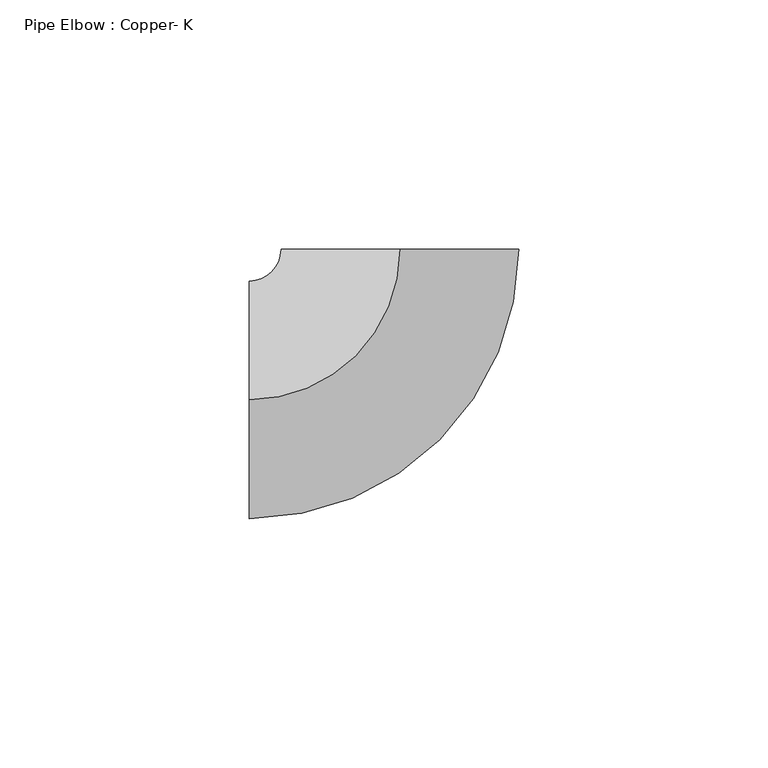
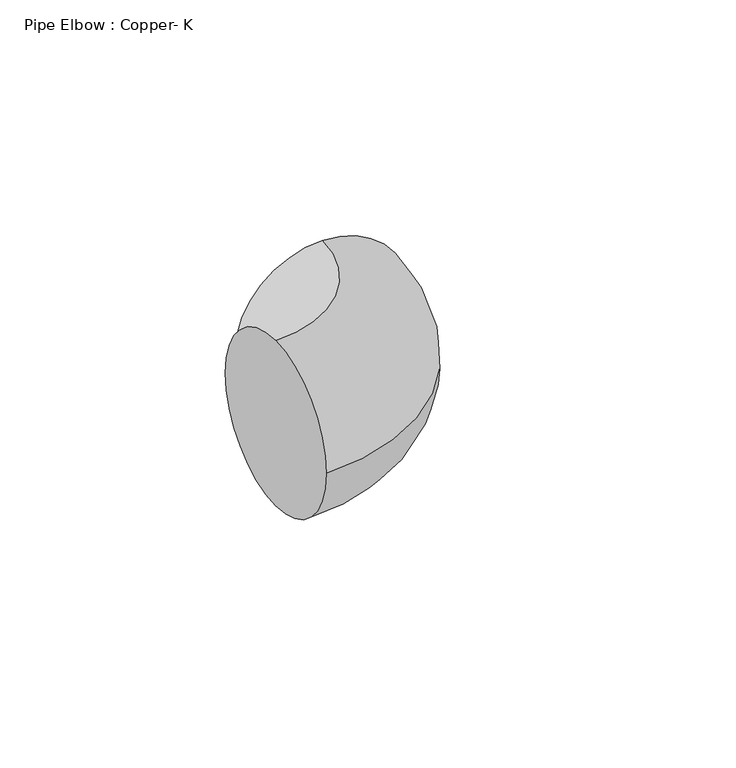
"""IFC4 building model written with IfcOpenShell, lengths in millimetres: pipe fitting geometry, Pipe Elbow : Copper- K."""

import ifcopenshell
import ifcopenshell.guid

model = None  # the IFC model being written
_history = None  # IfcOwnerHistory: only IFC2X3 demands one
_inside = {}  # id of a spatial element -> (the spatial element, [elements in it])
_under = {}  # id of a project, library or spatial element -> (it, [spatial elements below it])
_declared = {}  # id of a project -> (the project, [libraries it declares])
_typed = {}  # id of a type object -> (the type object, [elements of that type])
_made_of = {}  # id of a material, layer set ... -> (it, [elements and type objects made of it])


def new_model(schema):
    """Start an empty IFC model of exactly this schema.

    Asked for "IFC4X3", IfcOpenShell would pick the latest addendum, in which some entities
    have other attributes; the version numbers below select the first issue.
    IFC2X3 requires an IfcOwnerHistory on every rooted entity: one is made here for all.
    """
    global model, _history
    if schema == "IFC4X3":
        model = ifcopenshell.file(schema_version=(4, 3, 0, 0))
    else:
        model = ifcopenshell.file(schema=schema)
    _inside.clear()
    _under.clear()
    _declared.clear()
    _typed.clear()
    _made_of.clear()
    _history = None
    if model.schema == "IFC2X3":
        org = make("IfcOrganization", Name="unknown")
        user = make(
            "IfcPersonAndOrganization",
            ThePerson=make("IfcPerson", FamilyName="unknown"),
            TheOrganization=org,
        )
        app = make(
            "IfcApplication",
            ApplicationDeveloper=org,
            Version="unknown",
            ApplicationFullName="unknown",
            ApplicationIdentifier="unknown",
        )
        _history = make(
            "IfcOwnerHistory",
            OwningUser=user,
            OwningApplication=app,
            ChangeAction="ADDED",
            CreationDate=0,
        )
    return model


def make(cls, **values):
    """One entity of the class cls with the attributes given. An attribute that is None is left unset."""
    return model.create_entity(
        cls, **{name: value for name, value in values.items() if value is not None}
    )


def rooted(cls, **values):
    """An entity with a GlobalId (a new one), such as an element, a storey or a relation."""
    return make(cls, GlobalId=ifcopenshell.guid.new(), OwnerHistory=_history, **values)


def si_unit(unit_type, name, prefix=None):
    """IfcSIUnit, for example si_unit("LENGTHUNIT", "METRE", prefix="MILLI")."""
    return make("IfcSIUnit", UnitType=unit_type, Prefix=prefix, Name=name)


def assignment(units):
    """IfcUnitAssignment: the units of a project."""
    return None if units is None else make("IfcUnitAssignment", Units=units)


def point(xyz):
    """IfcCartesianPoint."""
    return None if xyz is None else make("IfcCartesianPoint", Coordinates=xyz)


def direction(xyz):
    """IfcDirection."""
    return None if xyz is None else make("IfcDirection", DirectionRatios=xyz)


def frame(location, z_axis=None, x_axis=None):
    """IfcAxis2Placement3D, a coordinate frame: its origin and axes. An axis left out is left unset."""
    return make(
        "IfcAxis2Placement3D",
        Location=point(location),
        Axis=direction(z_axis),
        RefDirection=direction(x_axis),
    )


def origin():
    """The frame at (0, 0, 0) with its axes left unset."""
    return frame((0.0, 0.0, 0.0))


def place(relative_to, where):
    """IfcLocalPlacement: puts the frame where relative to a parent placement (None: the world)."""
    return make(
        "IfcLocalPlacement", PlacementRelTo=relative_to, RelativePlacement=where
    )


def context(
    kind, dimensions, precision=None, world=None, true_north=None, identifier=None
):
    """IfcGeometricRepresentationContext, for example the 3D "Model" context."""
    return make(
        "IfcGeometricRepresentationContext",
        ContextIdentifier=identifier,
        ContextType=kind,
        CoordinateSpaceDimension=dimensions,
        Precision=precision,
        WorldCoordinateSystem=world,
        TrueNorth=true_north,
    )


def project(units=None, contexts=None):
    """IfcProject with its units and contexts."""
    return rooted(
        "IfcProject",
        Name="project",
        RepresentationContexts=contexts,
        UnitsInContext=assignment(units),
    )


def spatial(cls, under=None, at=None, **own):
    """A site, building, storey or space (cls), placed at a placement, below another one or the project."""
    s = rooted(cls, ObjectPlacement=at, **own)
    if under is not None:
        _under.setdefault(under.id(), (under, []))[1].append(s)
    return s


def circle_curve(where, radius):
    """IfcCircle in the frame where."""
    return make("IfcCircle", Position=where, Radius=radius)


def ellipse_curve(where, semi_axis1, semi_axis2):
    """IfcEllipse in the frame where."""
    return make(
        "IfcEllipse", Position=where, SemiAxis1=semi_axis1, SemiAxis2=semi_axis2
    )


def trimmed(basis, trim1, trim2, sense, master):
    """IfcTrimmedCurve: the piece of a basis curve between two trims."""
    return make(
        "IfcTrimmedCurve",
        BasisCurve=basis,
        Trim1=trim1,
        Trim2=trim2,
        SenseAgreement=sense,
        MasterRepresentation=master,
    )


def shape(context_of_items, identifier, shape_type, items):
    """IfcShapeRepresentation: the items that make up one representation, for example the "Body"."""
    return make(
        "IfcShapeRepresentation",
        ContextOfItems=context_of_items,
        RepresentationIdentifier=identifier,
        RepresentationType=shape_type,
        Items=items,
    )


def source(mapping_origin, context_of_items, identifier, shape_type, items):
    """IfcRepresentationMap: a shape defined once, which mapped items show again and again."""
    return make(
        "IfcRepresentationMap",
        MappingOrigin=mapping_origin,
        MappedRepresentation=shape(context_of_items, identifier, shape_type, items),
    )


def transform(
    local_origin,
    x_axis=None,
    y_axis=None,
    z_axis=None,
    scale=None,
    scale2=None,
    scale3=None,
    uniform=True,
):
    """IfcCartesianTransformationOperator3D, or its non-uniform kind. x_axis, y_axis, z_axis: its Axis1, 2, 3."""
    if uniform:
        return make(
            "IfcCartesianTransformationOperator3D",
            Axis1=direction(x_axis),
            Axis2=direction(y_axis),
            LocalOrigin=point(local_origin),
            Scale=scale,
            Axis3=direction(z_axis),
        )
    return make(
        "IfcCartesianTransformationOperator3DnonUniform",
        Axis1=direction(x_axis),
        Axis2=direction(y_axis),
        LocalOrigin=point(local_origin),
        Scale=scale,
        Axis3=direction(z_axis),
        Scale2=scale2,
        Scale3=scale3,
    )


def mapped(mapping_source, mapping_target):
    """IfcMappedItem: shows the shape of a source again, moved by a transform."""
    return make(
        "IfcMappedItem", MappingSource=mapping_source, MappingTarget=mapping_target
    )


def made_of(thing, what):
    """Note that an element or type object is made of a material, layer set ...; save() writes the relation."""
    if what is not None:
        _made_of.setdefault(what.id(), (what, []))[1].append(thing)
    return thing


def element(
    cls,
    number,
    at=None,
    inside=None,
    cuts=None,
    type_object=None,
    material=None,
    context=None,
    identifier="Body",
    shape_type=None,
    held_by="IfcProductDefinitionShape",
    body=None,
    shapes=None,
    **own,
):
    """One element of the class cls, such as IfcWall. Its Tag is "e" and its number.

    at: its placement. inside: the storey or other place that contains it. cuts: it is an
    opening in that element (IfcRelVoidsElement). A single representation is given by context,
    identifier, shape_type and body (its items); several are given by shapes. held_by: the class
    of the entity that holds the representations. save() writes the other relations.
    """
    e = rooted(cls, Tag="e%d" % number, ObjectPlacement=at, **own)
    if body is not None:
        shapes = [shape(context, identifier, shape_type, body)]
    if shapes is not None:
        e.Representation = make(held_by, Representations=shapes)
    if inside is not None:
        _inside.setdefault(inside.id(), (inside, []))[1].append(e)
    if cuts is not None:
        rooted(
            "IfcRelVoidsElement", RelatingBuildingElement=cuts, RelatedOpeningElement=e
        )
    if type_object is not None:
        _typed.setdefault(type_object.id(), (type_object, []))[1].append(e)
    return made_of(e, material)


def aggregate(whole, parts):
    """IfcRelAggregates: a whole, such as a stair, and the parts it consists of."""
    return rooted("IfcRelAggregates", RelatingObject=whole, RelatedObjects=parts)


def save(model, path):
    """Write the relations noted so far, then the file.

    IfcRelAggregates (storeys below a building ...), IfcRelContainedInSpatialStructure (elements
    in a storey), IfcRelDefinesByType, IfcRelAssociatesMaterial and IfcRelDeclares: one each for
    every whole, place, type object, material and project.
    """
    for whole, parts in _under.values():
        aggregate(whole, parts)
    for where, things in _inside.values():
        rooted(
            "IfcRelContainedInSpatialStructure",
            RelatedElements=things,
            RelatingStructure=where,
        )
    for kind, things in _typed.values():
        rooted("IfcRelDefinesByType", RelatedObjects=things, RelatingType=kind)
    for what, things in _made_of.values():
        rooted("IfcRelAssociatesMaterial", RelatedObjects=things, RelatingMaterial=what)
    for by, libraries in _declared.values():
        rooted("IfcRelDeclares", RelatingContext=by, RelatedDefinitions=libraries)
    model.write(path)


def plane_surface(at):
    """IfcPlane: the flat surface through the origin of the frame at, square to its z axis."""
    return make("IfcPlane", Position=at)


def revolved_surface(curve, axis_point, axis_direction):
    """IfcSurfaceOfRevolution: the curve turned about the line through axis_point along axis_direction."""
    return make(
        "IfcSurfaceOfRevolution",
        SweptCurve=make("IfcArbitraryOpenProfileDef", ProfileType="CURVE", Curve=curve),
        AxisPosition=make("IfcAxis1Placement", Location=point(axis_point), Axis=direction(axis_direction)),
    )


def advanced_brep(points, edges, surfaces, faces):
    """IfcAdvancedBrep: a solid bounded by faces that lie on surfaces and meet in shared edges.

    An edge is (start, end): straight between two places in points (the first is 0);
    or (start, end, curve); or (start, end, curve, False) where it runs against its curve.
    A face is (place in surfaces, loops), or (place, loops, False) where it looks against
    its surface's normal. A loop lists edges by number (the first is 1), with a minus sign
    where the edge is run from its end to its start. The first loop is the outer one.
    """
    corners = [point(p) for p in points]
    vertices = [make("IfcVertexPoint", VertexGeometry=c) for c in corners]
    made = []
    for start, end, *more in edges:
        made.append(
            make(
                "IfcEdgeCurve",
                EdgeStart=vertices[start],
                EdgeEnd=vertices[end],
                EdgeGeometry=more[0] if more else make("IfcPolyline", Points=[corners[start], corners[end]]),
                SameSense=more[1] if len(more) > 1 else True,
            )
        )
    hull = []
    for where, loops, *sense in faces:
        bounds = []
        for j, loop in enumerate(loops):
            ring = [make("IfcOrientedEdge", EdgeElement=made[abs(k) - 1], Orientation=k > 0) for k in loop]
            bounds.append(
                make(
                    "IfcFaceOuterBound" if j == 0 else "IfcFaceBound",
                    Bound=make("IfcEdgeLoop", EdgeList=ring),
                    Orientation=True,
                )
            )
        hull.append(make("IfcAdvancedFace", Bounds=bounds, FaceSurface=surfaces[where], SameSense=sense[0] if sense else True))
    return make("IfcAdvancedBrep", Outer=make("IfcClosedShell", CfsFaces=hull))


def pipe_elbow_copper_k_e0d34d9b(model_context):
    return source(origin(), model_context, "Body", "AdvancedBrep", [
        advanced_brep(
        [(-30.1593731, 0.0, 23.8125), (-30.1593731, 23.8125, 0.0), (-30.1593731, 0.0, -23.8125), (-30.1593731, -23.8125, 0.0), (0.0031268, 30.1593729, 23.8125), (23.8156266, 30.1569042, 0.0), (0.0031268, 30.1593729, -23.8125), (-23.8093731, 30.1618417, 0.0)],
        [
            (0, 1, circle_curve(frame((-30.1593731, 0.0, 0.0), z_axis=(-1.0, 0.0, 0.0), x_axis=(0.0, 1.0, 0.0)), 23.8125)),
            (1, 2, circle_curve(frame((-30.1593731, 0.0, 0.0), z_axis=(-1.0, 0.0, 0.0), x_axis=(0.0, 1.0, 0.0)), 23.8125)),
            (2, 3, circle_curve(frame((-30.1593731, 0.0, 0.0), z_axis=(-1.0, 0.0, 0.0), x_axis=(0.0, 1.0, 0.0)), 23.8125)),
            (3, 0, circle_curve(frame((-30.1593731, 0.0, 0.0), z_axis=(-1.0, 0.0, 0.0), x_axis=(0.0, 1.0, 0.0)), 23.8125)),
            (4, 5, circle_curve(frame((0.0031268, 30.1593729, 0.0), z_axis=(0.00010367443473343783, 0.9999999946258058, 0.0), x_axis=(-0.9999999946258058, 0.00010367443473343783, 0.0)), 23.8125)),
            (5, 6, circle_curve(frame((0.0031268, 30.1593729, 0.0), z_axis=(0.00010367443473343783, 0.9999999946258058, 0.0), x_axis=(-0.9999999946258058, 0.00010367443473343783, 0.0)), 23.8125)),
            (6, 7, circle_curve(frame((0.0031268, 30.1593729, 0.0), z_axis=(0.00010367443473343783, 0.9999999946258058, 0.0), x_axis=(-0.9999999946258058, 0.00010367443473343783, 0.0)), 23.8125)),
            (7, 4, circle_curve(frame((0.0031268, 30.1593729, 0.0), z_axis=(0.00010367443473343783, 0.9999999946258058, 0.0), x_axis=(-0.9999999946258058, 0.00010367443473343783, 0.0)), 23.8125)),
            (7, 1, circle_curve(frame((-30.1593731, 30.1625, 0.0), z_axis=(0.0, 0.0, -1.0), x_axis=(0.0, -1.0, 0.0)), 6.35)),
            (0, 4, circle_curve(frame((-30.1593731, 30.1625, 23.8125), z_axis=(0.0, 0.0, 1.0), x_axis=(0.0, -1.0, 0.0)), 30.1625)),
            (6, 2, circle_curve(frame((-30.1593731, 30.1625, -23.8125), z_axis=(0.0, 0.0, -1.0), x_axis=(0.0, -1.0, 0.0)), 30.1625)),
            (5, 3, circle_curve(frame((-30.1593731, 30.1625, 0.0), z_axis=(0.0, 0.0, -1.0), x_axis=(0.0, -1.0, 0.0)), 53.975)),
        ],
        [
            plane_surface(frame((-30.1593731, 0.0, 0.0), z_axis=(-1.0, 0.0, 0.0), x_axis=(0.0, 0.0, 1.0))),
            plane_surface(frame((0.0031268, 30.1593729, 0.0), z_axis=(0.000103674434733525, 0.9999999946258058, 0.0), x_axis=(0.0, 0.0, 1.0))),
            revolved_surface(trimmed(ellipse_curve(frame((-30.1593731, 0.0, 0.0), z_axis=(-1.0, 0.0, 0.0), x_axis=(0.0, 1.0, 0.0)), 23.8125, 23.8125), [point((-30.1593731, 0.0, 23.8125))], [point((-30.1593731, 23.8125, 0.0))], True, "CARTESIAN"), (-30.1593731, 30.1625, 0.0), (0.0, 0.0, 1.0)),
            revolved_surface(trimmed(ellipse_curve(frame((-30.1593731, 0.0, 0.0), z_axis=(-1.0, 0.0, 0.0), x_axis=(0.0, 1.0, 0.0)), 23.8125, 23.8125), [point((-30.1593731, 23.8125, 0.0))], [point((-30.1593731, 0.0, -23.8125))], True, "CARTESIAN"), (-30.1593731, 30.1625, 0.0), (0.0, 0.0, 1.0)),
            revolved_surface(trimmed(ellipse_curve(frame((-30.1593731, 0.0, 0.0), z_axis=(-1.0, 0.0, 0.0), x_axis=(0.0, 1.0, 0.0)), 23.8125, 23.8125), [point((-30.1593731, 0.0, -23.8125))], [point((-30.1593731, -23.8125, 0.0))], True, "CARTESIAN"), (-30.1593731, 30.1625, 0.0), (0.0, 0.0, 1.0)),
            revolved_surface(trimmed(ellipse_curve(frame((-30.1593731, 0.0, 0.0), z_axis=(-1.0, 0.0, 0.0), x_axis=(0.0, 1.0, 0.0)), 23.8125, 23.8125), [point((-30.1593731, -23.8125, 0.0))], [point((-30.1593731, 0.0, 23.8125))], True, "CARTESIAN"), (-30.1593731, 30.1625, 0.0), (0.0, 0.0, 1.0)),
        ],
        [
            (0, [[1, 2, 3, 4]]),
            (1, [[5, 6, 7, 8]]),
            (2, [[9, -1, 10, -8]]),
            (3, [[11, -2, -9, -7]]),
            (4, [[12, -3, -11, -6]]),
            (5, [[-10, -4, -12, -5]]),
        ],
    ),
        advanced_brep(
        [(-30.1593731, 0.0, 23.8125), (-30.1593731, 23.8125, 0.0), (-30.1593731, 0.0, -23.8125), (-30.1593731, -23.8125, 0.0), (0.0031268, 30.1593729, 23.8125), (23.8156266, 30.1569042, 0.0), (0.0031268, 30.1593729, -23.8125), (-23.8093731, 30.1618417, 0.0)],
        [
            (0, 1, circle_curve(frame((-30.1593731, 0.0, 0.0), z_axis=(-1.0, 0.0, 0.0), x_axis=(0.0, 1.0, 0.0)), 23.8125)),
            (1, 2, circle_curve(frame((-30.1593731, 0.0, 0.0), z_axis=(-1.0, 0.0, 0.0), x_axis=(0.0, 1.0, 0.0)), 23.8125)),
            (2, 3, circle_curve(frame((-30.1593731, 0.0, 0.0), z_axis=(-1.0, 0.0, 0.0), x_axis=(0.0, 1.0, 0.0)), 23.8125)),
            (3, 0, circle_curve(frame((-30.1593731, 0.0, 0.0), z_axis=(-1.0, 0.0, 0.0), x_axis=(0.0, 1.0, 0.0)), 23.8125)),
            (4, 5, circle_curve(frame((0.0031268, 30.1593729, 0.0), z_axis=(0.00010367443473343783, 0.9999999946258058, 0.0), x_axis=(-0.9999999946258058, 0.00010367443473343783, 0.0)), 23.8125)),
            (5, 6, circle_curve(frame((0.0031268, 30.1593729, 0.0), z_axis=(0.00010367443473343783, 0.9999999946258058, 0.0), x_axis=(-0.9999999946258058, 0.00010367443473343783, 0.0)), 23.8125)),
            (6, 7, circle_curve(frame((0.0031268, 30.1593729, 0.0), z_axis=(0.00010367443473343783, 0.9999999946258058, 0.0), x_axis=(-0.9999999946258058, 0.00010367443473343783, 0.0)), 23.8125)),
            (7, 4, circle_curve(frame((0.0031268, 30.1593729, 0.0), z_axis=(0.00010367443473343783, 0.9999999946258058, 0.0), x_axis=(-0.9999999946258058, 0.00010367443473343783, 0.0)), 23.8125)),
            (7, 1, circle_curve(frame((-30.1593731, 30.1625, 0.0), z_axis=(0.0, 0.0, -1.0), x_axis=(0.0, -1.0, 0.0)), 6.35)),
            (0, 4, circle_curve(frame((-30.1593731, 30.1625, 23.8125), z_axis=(0.0, 0.0, 1.0), x_axis=(0.0, -1.0, 0.0)), 30.1625)),
            (6, 2, circle_curve(frame((-30.1593731, 30.1625, -23.8125), z_axis=(0.0, 0.0, -1.0), x_axis=(0.0, -1.0, 0.0)), 30.1625)),
            (5, 3, circle_curve(frame((-30.1593731, 30.1625, 0.0), z_axis=(0.0, 0.0, -1.0), x_axis=(0.0, -1.0, 0.0)), 53.975)),
        ],
        [
            plane_surface(frame((-30.1593731, 0.0, 0.0), z_axis=(-1.0, 0.0, 0.0), x_axis=(0.0, 0.0, 1.0))),
            plane_surface(frame((0.0031268, 30.1593729, 0.0), z_axis=(0.000103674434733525, 0.9999999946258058, 0.0), x_axis=(0.0, 0.0, 1.0))),
            revolved_surface(trimmed(ellipse_curve(frame((-30.1593731, 0.0, 0.0), z_axis=(-1.0, 0.0, 0.0), x_axis=(0.0, 1.0, 0.0)), 23.8125, 23.8125), [point((-30.1593731, 0.0, 23.8125))], [point((-30.1593731, 23.8125, 0.0))], True, "CARTESIAN"), (-30.1593731, 30.1625, 0.0), (0.0, 0.0, 1.0)),
            revolved_surface(trimmed(ellipse_curve(frame((-30.1593731, 0.0, 0.0), z_axis=(-1.0, 0.0, 0.0), x_axis=(0.0, 1.0, 0.0)), 23.8125, 23.8125), [point((-30.1593731, 23.8125, 0.0))], [point((-30.1593731, 0.0, -23.8125))], True, "CARTESIAN"), (-30.1593731, 30.1625, 0.0), (0.0, 0.0, 1.0)),
            revolved_surface(trimmed(ellipse_curve(frame((-30.1593731, 0.0, 0.0), z_axis=(-1.0, 0.0, 0.0), x_axis=(0.0, 1.0, 0.0)), 23.8125, 23.8125), [point((-30.1593731, 0.0, -23.8125))], [point((-30.1593731, -23.8125, 0.0))], True, "CARTESIAN"), (-30.1593731, 30.1625, 0.0), (0.0, 0.0, 1.0)),
            revolved_surface(trimmed(ellipse_curve(frame((-30.1593731, 0.0, 0.0), z_axis=(-1.0, 0.0, 0.0), x_axis=(0.0, 1.0, 0.0)), 23.8125, 23.8125), [point((-30.1593731, -23.8125, 0.0))], [point((-30.1593731, 0.0, 23.8125))], True, "CARTESIAN"), (-30.1593731, 30.1625, 0.0), (0.0, 0.0, 1.0)),
        ],
        [
            (0, [[1, 2, 3, 4]]),
            (1, [[5, 6, 7, 8]]),
            (2, [[9, -1, 10, -8]]),
            (3, [[11, -2, -9, -7]]),
            (4, [[12, -3, -11, -6]]),
            (5, [[-10, -4, -12, -5]]),
        ],
    ),
    ])


if __name__ == "__main__":
    model = new_model("IFC4")
    model_context = context("Model", 3, world=origin())
    ifc_project = project(units=[si_unit("LENGTHUNIT", "METRE", prefix="MILLI")], contexts=[model_context])
    site = spatial("IfcSite", under=ifc_project)
    building = spatial("IfcBuilding", under=site)
    placement = place(None, origin())
    pipe_elbow_copper_k_shape = pipe_elbow_copper_k_e0d34d9b(model_context)
    element("IfcPipeFitting", 1, ObjectType="Pipe Elbow : Copper- K", at=placement, inside=building, context=model_context, shape_type="MappedRepresentation", body=[
        mapped(pipe_elbow_copper_k_shape, transform((0.0, 0.0, 0.0), x_axis=(1.0, 0.0, 0.0), y_axis=(0.0, 1.0, 0.0), z_axis=(0.0, 0.0, 1.0))),
    ])
    save(model, "model.ifc")
